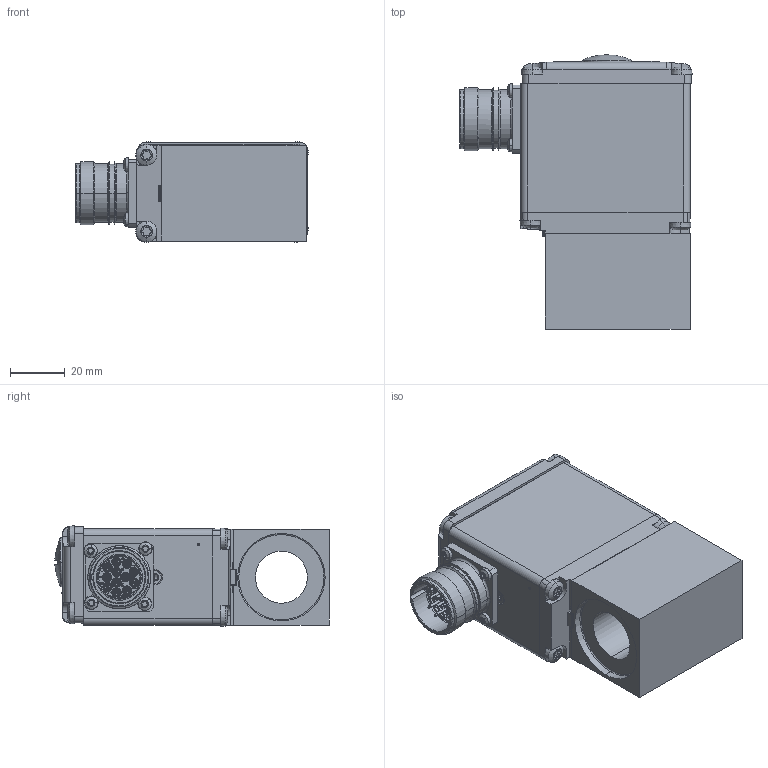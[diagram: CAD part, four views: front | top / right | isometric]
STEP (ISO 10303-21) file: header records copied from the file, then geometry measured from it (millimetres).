
FILE_DESCRIPTION (( 'STEP AP214' ), '1' );
FILE_NAME ('A1.STEP', '2017-03-23T14:45:58', ( '' ), ( '' ), 'SwSTEP 2.0', 'SolidWorks 2016', '' );
FILE_SCHEMA (( 'AUTOMOTIVE_DESIGN' ));
Length unit declared in the file: millimetre
Products named in the file (1): A1
Bounding box: 85.1 x 100.39 x 36.78 mm (x, y, z)
Volume: 110203.4 mm3; surface area: 60968.8 mm2
Topology: 36 solids, 37 shells, 4246 faces, 11587 edges, 7536 vertices
Faces by surface type: plane 2337, cylinder 1126, cone 317, torus 263, bspline 130, sphere 73
Entity records: 186970 total; most frequent: CARTESIAN_POINT 32916, ORIENTED_EDGE 22992, DIRECTION 21599, EDGE_CURVE 11496, VERTEX_POINT 7512, VECTOR 7479, LINE 7479, AXIS2_PLACEMENT_3D 7060
